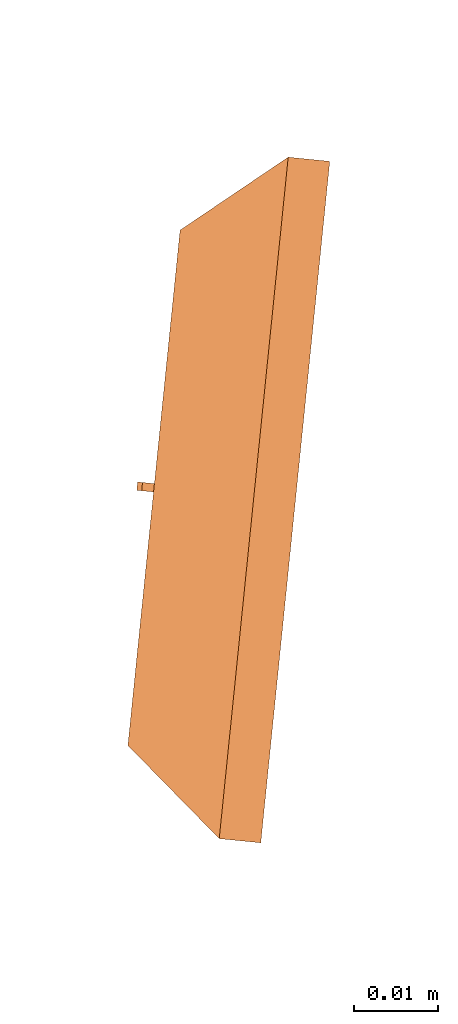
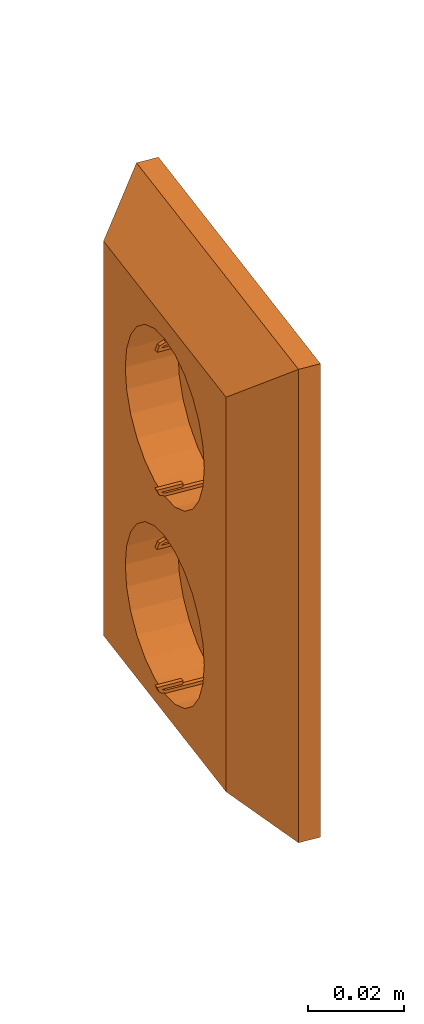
# One storey, part 30 of 33: 1 proxy.
"""IFC2X3 building model written with IfcOpenShell, lengths in millimetres."""

from ifc_helpers import new_model, entity, si_unit, converted_unit, derived_unit, direction, frame, origin, origin_with_axes, place, context, subcontext, project, spatial, faceted_brep, source, transform, mapped, material, material_list, type_object, element, save


model = new_model("IFC2X3")

# Units and contexts
plan_context = context("Plan", 3, precision=1e-05, world=origin_with_axes())
model_context = context("Model", 3, precision=0.01, world=origin(), true_north=direction((6.12323399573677e-17, 1.0)))
body_context = subcontext(model_context, "Body", "Model", "MODEL_VIEW")
ifc_project = project(units=[converted_unit("PLANEANGLEUNIT", "DEGREE", entity("IfcPositiveLengthMeasure", 0.0174532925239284), si_unit("PLANEANGLEUNIT", "RADIAN"), dimensions=[0, 0, 0, 0, 0, 0, 0]), si_unit("AREAUNIT", "SQUARE_METRE"), si_unit("LENGTHUNIT", "METRE", prefix="MILLI"), si_unit("MASSUNIT", "GRAM", prefix="KILO"), si_unit("POWERUNIT", "WATT"), si_unit("PRESSUREUNIT", "PASCAL", prefix="KILO"), si_unit("FORCEUNIT", "NEWTON", prefix="KILO"), si_unit("ELECTRICVOLTAGEUNIT", "VOLT"), si_unit("ELECTRICCURRENTUNIT", "AMPERE"), si_unit("THERMODYNAMICTEMPERATUREUNIT", "DEGREE_CELSIUS"), si_unit("TIMEUNIT", "SECOND"), si_unit("VOLUMEUNIT", "CUBIC_METRE"), derived_unit("LINEARVELOCITYUNIT", [(si_unit("LENGTHUNIT", "METRE"), 1), (si_unit("TIMEUNIT", "SECOND"), -1)]), derived_unit("VOLUMETRICFLOWRATEUNIT", [(si_unit("VOLUMEUNIT", "CUBIC_METRE"), 1), (si_unit("TIMEUNIT", "SECOND"), -1)]), derived_unit("THERMALTRANSMITTANCEUNIT", [(si_unit("POWERUNIT", "WATT"), 1), (si_unit("THERMODYNAMICTEMPERATUREUNIT", "KELVIN"), -1), (si_unit("AREAUNIT", "SQUARE_METRE"), -1)]), derived_unit("SOUNDPRESSUREUNIT", [(si_unit("PRESSUREUNIT", "PASCAL"), 1)])], contexts=[model_context, plan_context])

# Site, building, storey
site_placement = place(None, frame((-0.219946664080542, 0.12226179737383, 0.0), z_axis=(0.0, 0.0, 1.0), x_axis=(-0.160236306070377, 0.987078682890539, 0.0)))
site = spatial("IfcSite", under=ifc_project, at=site_placement, Name="Default", CompositionType="ELEMENT")
building_placement = place(site_placement, origin_with_axes())
building = spatial("IfcBuilding", under=site, at=building_placement, CompositionType="ELEMENT")
storey_placement = place(building_placement, frame((0.0, 0.0, 59000.0), z_axis=(0.0, 0.0, 1.0), x_axis=(1.0, 0.0, 0.0)))
storey = spatial("IfcBuildingStorey", under=building, at=storey_placement, Name="Nivå F", CompositionType="ELEMENT", Elevation=59000.0)

# Proxy
ifc_material_1 = material(Name="Material3")
ifc_material_2 = material(Name="Material2")
ifc_material_3 = material(Name="Material1")
ifc_material_list = material_list([ifc_material_1, ifc_material_2, ifc_material_3])
building_element_proxy_type = type_object("IfcBuildingElementProxyType", Name="Dobbel stikk vegg innf 1½ boks 2P+J vert PH:RECESSED-EARTHED-SOCKET-2(VER)", PredefinedType="NOTDEFINED", material=ifc_material_list)
shared_shape = source(origin(), body_context, "Body", "Brep", [
    faceted_brep([(0.499999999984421, 17.9077381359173, -43.2900460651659), (0.499999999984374, 17.4980087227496, -43.5927590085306), (0.499999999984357, 17.0, -43.6999999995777), (0.499999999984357, 5.0, -43.6999999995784), (0.499999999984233, 5.0, -44.4999999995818), (0.499999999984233, 17.0, -44.4999999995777), (0.499999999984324, 18.4212520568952, -43.9112981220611), (0.499999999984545, 19.0099539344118, -42.490046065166), (0.499999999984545, 13.0337787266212, -42.4900460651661), (0.499999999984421, 13.0337787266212, -43.2900460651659), (-0.500000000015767, 5.0, -44.4999999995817), (-0.500000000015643, 5.0, -43.6999999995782), (-0.500000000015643, 17.0, -43.6999999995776), (-0.500000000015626, 17.4980087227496, -43.5927590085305), (-0.500000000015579, 17.9077381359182, -43.2900460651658), (-0.500000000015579, 13.0337787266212, -43.2900460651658), (-0.500000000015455, 13.0337787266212, -42.4900460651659), (-0.500000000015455, 19.0099539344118, -42.4900460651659), (-0.500000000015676, 18.4212520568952, -43.911298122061), (-0.500000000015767, 17.0, -44.4999999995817)], [[[0, 1, 2, 3, 4, 5, 6, 7, 8, 9]], [[10, 11, 12, 13, 14, 15, 16, 17, 18, 19]], [[10, 19, 5, 4]], [[11, 10, 4, 3]], [[12, 11, 3, 2]], [[2, 1, 13, 12]], [[0, 14, 13, 1]], [[15, 14, 0, 9]], [[16, 15, 9, 8]], [[17, 16, 8, 7]], [[17, 7, 6, 18]], [[6, 5, 19, 18]]]),
    faceted_brep([(-0.500000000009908, 17.9240022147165, -6.72220296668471), (-0.500000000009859, 17.5079457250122, -6.41055048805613), (-0.500000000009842, 17.0, -6.29999999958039), (-0.500000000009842, 5.0, -6.29999999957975), (-0.500000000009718, 5.0, -5.49999999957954), (-0.500000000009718, 17.0, -5.49999999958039), (-0.50000000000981, 18.429913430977, -6.09228953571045), (-0.500000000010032, 19.022202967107, -7.52220296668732), (-0.500000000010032, 13.0667616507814, -7.52220296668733), (-0.500000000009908, 13.0667616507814, -6.7222029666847), (0.499999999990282, 5.0, -5.4999999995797), (0.499999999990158, 5.0, -6.29999999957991), (0.499999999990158, 17.0, -6.29999999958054), (0.499999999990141, 17.5079457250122, -6.41055048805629), (0.499999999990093, 17.9240022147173, -6.72220296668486), (0.499999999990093, 13.0667616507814, -6.72220296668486), (0.499999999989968, 13.0667616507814, -7.52220296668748), (0.499999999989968, 19.022202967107, -7.52220296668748), (0.49999999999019, 18.429913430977, -6.09228953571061), (0.499999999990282, 17.0, -5.4999999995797)], [[[0, 1, 2, 3, 4, 5, 6, 7, 8, 9]], [[10, 11, 12, 13, 14, 15, 16, 17, 18, 19]], [[5, 19, 18, 6]], [[18, 17, 7, 6]], [[8, 7, 17, 16]], [[9, 8, 16, 15]], [[0, 9, 15, 14]], [[14, 13, 1, 0]], [[12, 2, 1, 13]], [[3, 2, 12, 11]], [[4, 3, 11, 10]], [[5, 4, 10, 19]]]),
    faceted_brep([(-0.500000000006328, 18.4212520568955, 6.0887018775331), (-0.500000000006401, 17.0, 5.5000000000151), (-0.500000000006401, 5.0, 5.5000000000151), (-0.500000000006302, 5.0, 6.30000000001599), (-0.500000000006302, 17.0, 6.30000000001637), (-0.500000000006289, 17.4980087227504, 6.40724099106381), (-0.500000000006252, 17.9077381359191, 6.70995393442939), (-0.500000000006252, 13.0337787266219, 6.70995393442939), (-0.500000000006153, 13.0337787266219, 7.50995393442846), (-0.500000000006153, 19.0099539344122, 7.50995393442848), (0.499999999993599, 5.0, 5.50000000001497), (0.499999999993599, 17.0, 5.50000000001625), (0.499999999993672, 18.4212520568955, 6.08870187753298), (0.499999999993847, 19.0099539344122, 7.50995393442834), (0.499999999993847, 13.0337787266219, 7.50995393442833), (0.499999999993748, 13.0337787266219, 6.70995393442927), (0.499999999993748, 17.9077381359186, 6.70995393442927), (0.499999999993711, 17.4980087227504, 6.40724099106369), (0.499999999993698, 17.0, 6.30000000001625), (0.499999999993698, 5.0, 6.30000000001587)], [[[0, 1, 2, 3, 4, 5, 6, 7, 8, 9]], [[10, 11, 12, 13, 14, 15, 16, 17, 18, 19]], [[2, 1, 11, 10]], [[3, 2, 10, 19]], [[4, 3, 19, 18]], [[18, 17, 5, 4]], [[16, 6, 5, 17]], [[7, 6, 16, 15]], [[8, 7, 15, 14]], [[9, 8, 14, 13]], [[9, 13, 12, 0]], [[12, 11, 1, 0]]]),
    faceted_brep([(-0.50000000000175, 17.9240022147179, 43.2777970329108), (-0.500000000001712, 17.5079457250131, 43.5894495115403), (-0.500000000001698, 17.0, 43.7000000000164), (-0.500000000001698, 5.0, 43.7000000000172), (-0.5000000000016, 5.0, 44.5000000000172), (-0.5000000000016, 17.0, 44.5000000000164), (-0.500000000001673, 18.4299134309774, 43.9077104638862), (-0.500000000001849, 19.0222029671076, 42.4777970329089), (-0.500000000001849, 13.0667616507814, 42.4777970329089), (-0.50000000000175, 13.0667616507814, 43.2777970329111), (0.4999999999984, 5.0, 44.5000000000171), (0.499999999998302, 5.0, 43.7000000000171), (0.499999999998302, 17.0, 43.7000000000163), (0.499999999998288, 17.5079457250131, 43.5894495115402), (0.49999999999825, 17.9240022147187, 43.277797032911), (0.49999999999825, 13.0667616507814, 43.277797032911), (0.499999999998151, 13.0667616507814, 42.4777970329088), (0.499999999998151, 19.0222029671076, 42.4777970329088), (0.499999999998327, 18.4299134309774, 43.9077104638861), (0.4999999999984, 17.0, 44.5000000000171)], [[[0, 1, 2, 3, 4, 5, 6, 7, 8, 9]], [[10, 11, 12, 13, 14, 15, 16, 17, 18, 19]], [[5, 19, 18, 6]], [[18, 17, 7, 6]], [[8, 7, 17, 16]], [[9, 8, 16, 15]], [[0, 9, 15, 14]], [[14, 13, 1, 0]], [[12, 2, 1, 13]], [[3, 2, 12, 11]], [[4, 3, 11, 10]], [[5, 4, 10, 19]]]),
    faceted_brep([(-8.89218180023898, 5.50000000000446, -26.4355061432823), (-10.0, 5.50000000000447, -27.5433243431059), (-11.2716621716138, 5.50000000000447, -26.2716621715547), (-12.5433243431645, 5.50000000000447, -25.0), (-11.107818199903, 5.50000000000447, -23.5644938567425), (-10.0, 5.50000000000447, -22.456675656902), (-8.72833782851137, 5.50000000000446, -23.7283378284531), (-7.45667565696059, 5.50000000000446, -25.0), (-7.45667565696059, 5.0, -25.0), (-8.72833782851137, 5.0, -23.7283378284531), (-10.0, 5.0, -22.456675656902), (-11.2716621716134, 5.0, -23.7283378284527), (-12.5433243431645, 5.0, -25.0), (-11.2716621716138, 5.0, -26.2716621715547), (-10.0, 5.0, -27.5433243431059), (-8.72833782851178, 5.0, -26.2716621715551)], [[[0, 1, 2, 3, 4, 5, 6, 7]], [[8, 9, 10, 11, 12, 13, 14, 15]], [[11, 10, 5, 4, 3, 12]], [[13, 12, 3, 2, 1, 14]], [[15, 14, 1, 0, 7, 8]], [[9, 8, 7, 6, 5, 10]]]),
    faceted_brep([(12.5429237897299, 5.0, -25.0), (11.2714618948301, 5.0, -23.7285381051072), (10.0, 5.0, -22.457076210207), (8.72853810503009, 5.0, -23.7285381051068), (7.4570762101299, 5.0, -25.0), (8.72853810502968, 5.0, -26.2714618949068), (10.0, 5.0, -27.542923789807), (11.2714618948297, 5.0, -26.2714618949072), (11.1077309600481, 5.50000000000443, -23.5648071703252), (12.5429237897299, 5.50000000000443, -25.0), (11.2714618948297, 5.50000000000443, -26.2714618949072), (10.0, 5.50000000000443, -27.542923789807), (8.89226903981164, 5.50000000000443, -26.4351928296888), (7.4570762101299, 5.50000000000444, -25.0), (8.72853810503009, 5.50000000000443, -23.7285381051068), (10.0, 5.50000000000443, -22.457076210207)], [[[0, 1, 2, 3, 4, 5, 6, 7]], [[8, 9, 10, 11, 12, 13, 14, 15]], [[15, 14, 13, 4, 3, 2]], [[13, 12, 11, 6, 5, 4]], [[11, 10, 9, 0, 7, 6]], [[9, 8, 15, 2, 1, 0]]]),
    faceted_brep([(-7.54751482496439, 5.50000000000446, 25.0), (-8.9121454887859, 5.50000000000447, 23.6353693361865), (-10.0, 5.50000000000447, 22.5475148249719), (-11.2262425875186, 5.50000000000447, 23.7737574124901), (-12.4524851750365, 5.50000000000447, 25.0), (-11.0878545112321, 5.50000000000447, 26.3646306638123), (-10.0, 5.50000000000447, 27.452485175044), (-8.77375741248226, 5.50000000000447, 26.2262425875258), (-11.2262425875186, 5.0, 23.7737574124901), (-10.0, 5.0, 22.5475148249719), (-8.77375741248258, 5.0, 23.7737574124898), (-7.54751482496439, 5.0, 25.0), (-8.77375741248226, 5.0, 26.2262425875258), (-10.0, 5.0, 27.452485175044), (-11.2262425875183, 5.0, 26.2262425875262), (-12.4524851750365, 5.0, 25.0)], [[[0, 1, 2, 3, 4, 5, 6, 7]], [[8, 9, 10, 11, 12, 13, 14, 15]], [[14, 13, 6, 5, 4, 15]], [[8, 15, 4, 3, 2, 9]], [[10, 9, 2, 1, 0, 11]], [[12, 11, 0, 7, 6, 13]]]),
    faceted_brep([(8.76085027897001, 5.0, 23.7608502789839), (10.0, 5.0, 22.5217005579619), (11.2391497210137, 5.0, 23.7608502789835), (12.4782994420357, 5.0, 25.0), (11.239149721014, 5.0, 26.2391497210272), (10.0, 5.0, 27.4782994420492), (8.76085027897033, 5.0, 26.2391497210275), (7.52170055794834, 5.0, 25.0), (11.2391497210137, 5.50000000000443, 23.7608502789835), (10.0, 5.50000000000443, 22.5217005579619), (8.90643522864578, 5.50000000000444, 23.6152653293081), (7.52170055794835, 5.50000000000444, 25.0), (8.76085027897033, 5.50000000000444, 26.2391497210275), (10.0, 5.50000000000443, 27.4782994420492), (11.0935647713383, 5.50000000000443, 26.384734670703), (12.4782994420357, 5.50000000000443, 25.0)], [[[0, 1, 2, 3, 4, 5, 6, 7]], [[8, 9, 10, 11, 12, 13, 14, 15]], [[13, 12, 11, 7, 6, 5]], [[11, 10, 9, 1, 0, 7]], [[9, 8, 15, 3, 2, 1]], [[15, 14, 13, 5, 4, 3]]]),
    faceted_brep([(41.0, 5.0, -60.0), (19.318516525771, 5.0, -30.1763809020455), (17.3205080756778, 5.0, -35.0), (20.0, 5.0, -25.0), (14.1421356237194, 5.0, -39.1421356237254), (10.0, 5.0, -42.3205080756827), (5.17638090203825, 5.0, -44.3185165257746), (0.0, 5.0, -45.0), (19.3185165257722, 5.0, -19.8236190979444), (19.3185165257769, 5.0, 19.8236190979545), (-41.0, 5.0, -60.0), (41.0, 5.0, 60.0), (20.0, 5.0, 25.0), (19.3185165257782, 5.0, 30.1763809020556), (17.3205080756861, 5.0, 35.0), (14.1421356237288, 5.0, 39.1421356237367), (10.0, 5.0, 42.320508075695), (5.17638090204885, 5.0, 44.3185165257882), (0.0, 5.0, 45.0), (-41.0, 5.0, 60.0), (-19.3185165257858, 5.0, 19.8236190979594), (-20.0, 5.0, 25.0), (-5.17638090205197, 5.0, 44.3185165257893), (-10.0, 5.0, 42.3205080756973), (-14.1421356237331, 5.0, 39.14213562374), (-17.3205080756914, 5.0, 35.0), (-19.3185165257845, 5.0, 30.17638090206), (17.3205080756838, 5.0, 15.0), (17.3205080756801, 5.0, -15.0), (14.1421356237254, 5.0, 10.8578643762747), (14.1421356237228, 5.0, -10.8578643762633), (10.0, 5.0, 7.67949192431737), (10.0, 5.0, -7.67949192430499), (5.17638090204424, 5.0, 5.68148347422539), (5.17638090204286, 5.0, -5.68148347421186), (0.0, 5.0, -5.0), (0.0, 5.0, 5.0), (-5.17638090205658, 5.0, 5.68148347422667), (-5.17638090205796, 5.0, -5.68148347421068), (-10.0, 5.0, -7.67949192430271), (-10.0, 5.0, 7.67949192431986), (-14.1421356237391, 5.0, -10.8578643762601), (-14.1421356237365, 5.0, 10.8578643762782), (-17.3205080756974, 5.0, -15.0), (-17.3205080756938, 5.0, 15.0), (-19.3185165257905, 5.0, -19.82361909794), (-20.0, 5.0, -25.0), (-5.17638090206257, 5.0, -44.3185165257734), (-10.0, 5.0, -42.3205080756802), (-14.1421356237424, 5.0, -39.1421356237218), (-17.3205080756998, 5.0, -35.0), (-19.3185165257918, 5.0, -30.1763809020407), (-31.0, 17.0, -50.0), (-19.3185165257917, 17.0, -30.1763809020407), (-17.3205080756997, 17.0, -35.0), (-20.0, 17.0, -25.0), (-14.1421356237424, 17.0, -39.1421356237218), (-10.0, 17.0, -42.3205080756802), (-5.17638090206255, 17.0, -44.3185165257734), (0.0, 17.0, -45.0), (-19.3185165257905, 17.0, -19.82361909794), (-19.3185165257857, 17.0, 19.8236190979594), (31.0, 17.0, -50.0), (-31.0, 17.0, 50.0), (-20.0, 17.0, 25.0), (-19.3185165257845, 17.0, 30.17638090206), (-17.3205080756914, 17.0, 35.0), (-14.1421356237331, 17.0, 39.14213562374), (-10.0, 17.0, 42.3205080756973), (-5.17638090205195, 17.0, 44.3185165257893), (0.0, 17.0, 45.0), (31.0, 17.0, 50.0), (5.17638090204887, 17.0, 44.3185165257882), (10.0, 17.0, 42.320508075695), (14.1421356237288, 17.0, 39.1421356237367), (17.3205080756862, 17.0, 35.0), (19.3185165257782, 17.0, 30.1763809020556), (20.0, 17.0, 25.0), (19.318516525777, 17.0, 19.8236190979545), (5.17638090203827, 17.0, -44.3185165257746), (10.0, 17.0, -42.3205080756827), (14.1421356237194, 17.0, -39.1421356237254), (17.3205080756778, 17.0, -35.0), (19.318516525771, 17.0, -30.1763809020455), (20.0, 17.0, -25.0), (19.3185165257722, 17.0, -19.8236190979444), (17.3205080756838, 17.0, 15.0), (-17.3205080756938, 17.0, 15.0), (-17.3205080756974, 17.0, -15.0), (-14.1421356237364, 17.0, 10.8578643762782), (-14.1421356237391, 17.0, -10.8578643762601), (-10.0, 17.0, 7.67949192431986), (-10.0, 17.0, -7.67949192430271), (-5.17638090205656, 17.0, 5.68148347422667), (-5.17638090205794, 17.0, -5.68148347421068), (0.0, 17.0, -5.0), (0.0, 17.0, 5.0), (5.17638090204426, 17.0, 5.68148347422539), (5.17638090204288, 17.0, -5.68148347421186), (10.0, 17.0, -7.67949192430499), (10.0, 17.0, 7.67949192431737), (14.1421356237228, 17.0, -10.8578643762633), (14.1421356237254, 17.0, 10.8578643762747), (17.3205080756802, 17.0, -15.0)], [[[0, 1, 2]], [[1, 0, 3]], [[0, 2, 4]], [[4, 5, 0]], [[5, 6, 0]], [[0, 6, 7]], [[8, 3, 0]], [[8, 0, 9]], [[7, 10, 0]], [[0, 11, 9]], [[11, 12, 9]], [[12, 11, 13]], [[13, 11, 14]], [[15, 14, 11]], [[15, 11, 16]], [[17, 16, 11]], [[11, 18, 17]], [[18, 11, 19]], [[20, 19, 10]], [[20, 21, 19]], [[22, 18, 19]], [[23, 22, 19]], [[19, 24, 23]], [[24, 19, 25]], [[26, 25, 19]], [[26, 19, 21]], [[27, 8, 9]], [[27, 28, 8]], [[27, 29, 28]], [[28, 29, 30]], [[29, 31, 30]], [[32, 30, 31]], [[31, 33, 32]], [[32, 33, 34]], [[35, 34, 33]], [[33, 36, 35]], [[36, 37, 35]], [[35, 37, 38]], [[39, 38, 37]], [[37, 40, 39]], [[41, 39, 40]], [[40, 42, 41]], [[41, 42, 43]], [[42, 44, 43]], [[44, 45, 43]], [[20, 45, 44]], [[10, 45, 20]], [[46, 45, 10]], [[7, 47, 10]], [[47, 48, 10]], [[49, 10, 48]], [[10, 49, 50]], [[10, 50, 51]], [[51, 46, 10]], [[52, 53, 54]], [[53, 52, 55]], [[52, 54, 56]], [[56, 57, 52]], [[57, 58, 52]], [[52, 58, 59]], [[60, 55, 52]], [[52, 61, 60]], [[59, 62, 52]], [[61, 52, 63]], [[63, 64, 61]], [[64, 63, 65]], [[65, 63, 66]], [[67, 66, 63]], [[67, 63, 68]], [[69, 68, 63]], [[63, 70, 69]], [[70, 63, 71]], [[72, 70, 71]], [[73, 72, 71]], [[71, 74, 73]], [[74, 71, 75]], [[76, 75, 71]], [[76, 71, 77]], [[78, 77, 71]], [[78, 71, 62]], [[59, 79, 62]], [[79, 80, 62]], [[81, 62, 80]], [[62, 81, 82]], [[62, 82, 83]], [[83, 84, 62]], [[84, 85, 62]], [[62, 85, 78]], [[86, 78, 85]], [[61, 87, 60]], [[88, 60, 87]], [[87, 89, 88]], [[88, 89, 90]], [[89, 91, 90]], [[92, 90, 91]], [[91, 93, 92]], [[92, 93, 94]], [[95, 94, 93]], [[93, 96, 95]], [[96, 97, 95]], [[95, 97, 98]], [[99, 98, 97]], [[97, 100, 99]], [[101, 99, 100]], [[100, 102, 101]], [[101, 102, 103]], [[102, 86, 103]], [[85, 103, 86]], [[10, 52, 62, 0]], [[0, 62, 71, 11]], [[11, 71, 63, 19]], [[19, 63, 52, 10]], [[64, 21, 20, 61]], [[61, 20, 44, 87]], [[91, 89, 42, 40]], [[42, 89, 87, 44]], [[93, 91, 40, 37]], [[93, 37, 36, 96]], [[96, 36, 33, 97]], [[97, 33, 31, 100]], [[86, 102, 29, 27]], [[29, 102, 100, 31]], [[78, 86, 27, 9]], [[78, 9, 12, 77]], [[77, 12, 13, 76]], [[76, 13, 14, 75]], [[73, 74, 15, 16]], [[15, 74, 75, 14]], [[72, 73, 16, 17]], [[72, 17, 18, 70]], [[70, 18, 22, 69]], [[69, 22, 23, 68]], [[66, 67, 24, 25]], [[24, 67, 68, 23]], [[65, 66, 25, 26]], [[65, 26, 21, 64]], [[55, 46, 51, 53]], [[53, 51, 50, 54]], [[57, 56, 49, 48]], [[49, 56, 54, 50]], [[58, 57, 48, 47]], [[58, 47, 7, 59]], [[59, 7, 6, 79]], [[79, 6, 5, 80]], [[82, 81, 4, 2]], [[4, 81, 80, 5]], [[83, 82, 2, 1]], [[83, 1, 3, 84]], [[84, 3, 8, 85]], [[85, 8, 28, 103]], [[99, 101, 30, 32]], [[30, 101, 103, 28]], [[98, 99, 32, 34]], [[98, 34, 35, 95]], [[95, 35, 38, 94]], [[94, 38, 39, 92]], [[88, 90, 41, 43]], [[41, 90, 92, 39]], [[60, 88, 43, 45]], [[60, 45, 46, 55]]]),
    faceted_brep([(-41.0, 0.0, -60.0), (41.0, 0.0, -60.0), (41.0, 0.0, 60.0), (-41.0, 0.0, 60.0), (-41.0, 5.0, -60.0), (-41.0, 5.0, 60.0), (41.0, 5.0, 60.0), (41.0, 5.0, -60.0)], [[[0, 1, 2, 3]], [[4, 5, 6, 7]], [[1, 0, 4, 7]], [[2, 1, 7, 6]], [[3, 2, 6, 5]], [[0, 3, 5, 4]]]),
])
proxy_placement = place(storey_placement, frame((780221.086261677, -508583.591414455, 200.0), z_axis=(0.0, 0.0, 1.0), x_axis=(0.96592582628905, -0.25881904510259, 0.0)))
element("IfcBuildingElementProxy", 1, at=proxy_placement, inside=storey, type_object=building_element_proxy_type, material=ifc_material_list, Name="Dobbel stikk vegg innf 1½ boks 2P+J vert PH:RECESSED-EARTHED-SOCKET-2(VER)", ObjectType="Dobbel stikk vegg innf 1½ boks 2P+J vert PH:RECESSED-EARTHED-SOCKET-2(VER)", context=body_context, shape_type="MappedRepresentation", body=[
    mapped(shared_shape, transform((0.0, 0.0, 0.0), scale=1.0)),
])

save(model, "model.ifc")
